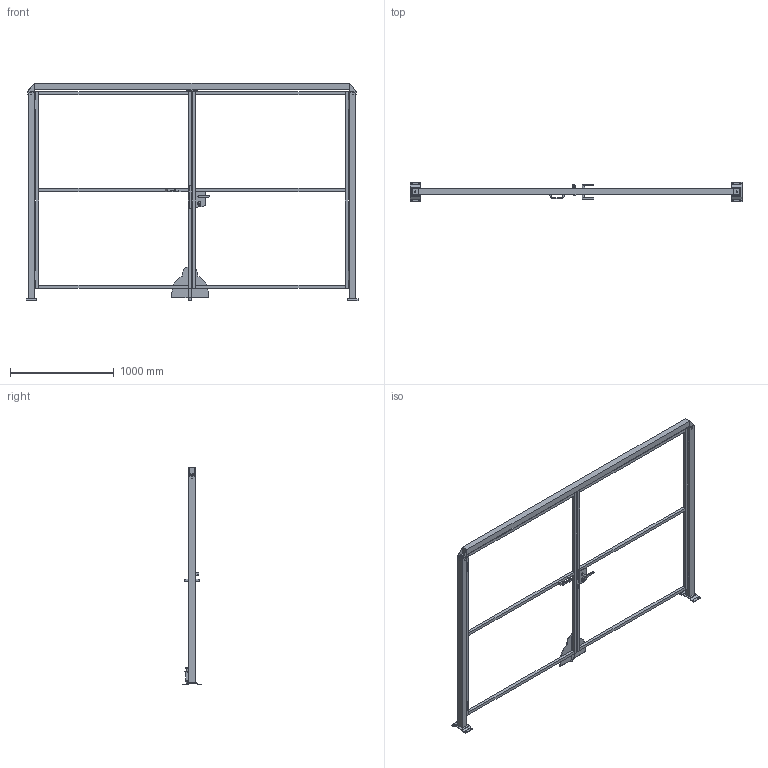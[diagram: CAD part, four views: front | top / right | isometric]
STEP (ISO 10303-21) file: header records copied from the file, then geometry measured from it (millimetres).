
FILE_DESCRIPTION(/* description */ (''),/* implementation_level */ '2;1');
FILE_NAME(/* name */ 'C:\SafeGuarding\ELABORATI\VZOR§GAMMA_2025-02-03-11-09-01.stp',/* time_stamp */ '2025-02-03T11:09:03+01:00',/* author */ ('admin'),/* organization */ (''),/* preprocessor_version */ 'ST-DEVELOPER v18.1',/* originating_system */ 'AutoCAD Mechanical',/* authorisation */ '');
FILE_SCHEMA (('AUTOMOTIVE_DESIGN { 1 0 10303 214 3 1 1 }'));
Length unit declared in the file: millimetre
Products named in the file (5): Product; *U4; DATI_PORTA; P_VFMA.ME60SDU.2020; R_VFPA.REPE30.15001900
Assembly tree (6 placements, depth 2):
  Product
    R_VFPA.REPE30.15001900  x2
    P_VFMA.ME60SDU.2020  x2
    *U4
    DATI_PORTA
Bounding box: 3205 x 192 x 2100.5 mm (x, y, z)
Volume: 41821669.5 mm3; surface area: 4356983.9 mm2
Topology: 40 solids, 51 shells, 473 faces, 1504 edges, 1474 vertices
Faces by surface type: plane 397, cylinder 71, bspline 4, cone 1
Full cylindrical faces by diameter (mm): 11 x25, 14 x2, 24 x1, 25 x2, 25.398 x2
Entity records: 14811 total; most frequent: CARTESIAN_POINT 4132, DIRECTION 2083, ORIENTED_EDGE 1924, EDGE_CURVE 1011, LINE 901, VECTOR 901, VERTEX_POINT 710, AXIS2_PLACEMENT_3D 591
